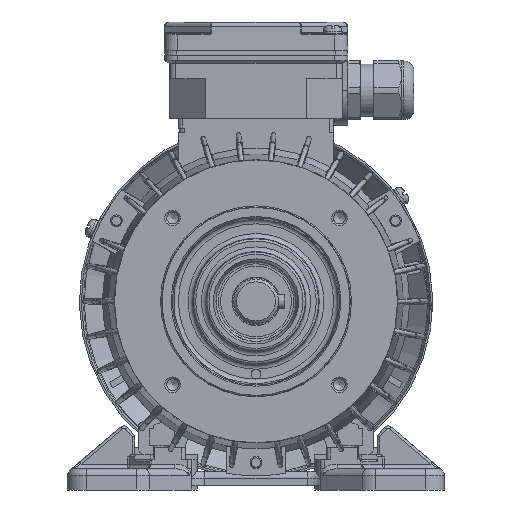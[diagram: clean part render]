
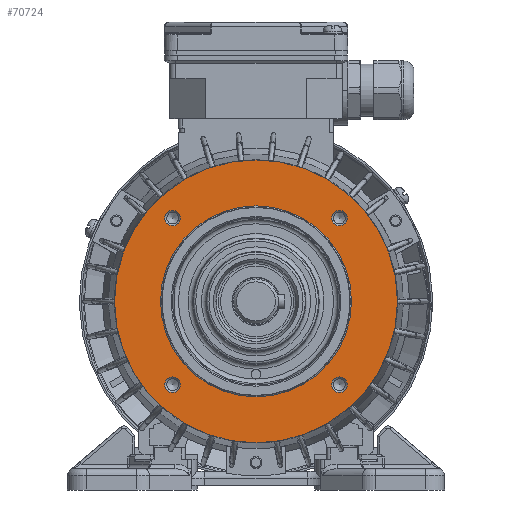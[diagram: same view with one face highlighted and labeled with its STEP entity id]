
A CAD part, left-side view. The second image highlights one B-rep face of the part: STEP entity #70724.
In plain terms, the highlighted planar face has unit normal (-1, 0, 0).
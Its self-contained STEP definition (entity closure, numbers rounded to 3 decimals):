
#21652=ORIENTED_EDGE('',*,*,#32033,.T.);
#21653=ORIENTED_EDGE('',*,*,#32034,.T.);
#21654=ORIENTED_EDGE('',*,*,#32035,.T.);
#21655=ORIENTED_EDGE('',*,*,#32036,.T.);
#21656=ORIENTED_EDGE('',*,*,#32037,.T.);
#21657=ORIENTED_EDGE('',*,*,#31959,.T.);
#31959=EDGE_CURVE('',#38035,#38035,#41195,.T.);
#32033=EDGE_CURVE('',#38048,#38048,#41231,.F.);
#32034=EDGE_CURVE('',#38049,#38049,#41232,.F.);
#32035=EDGE_CURVE('',#38050,#38050,#41233,.F.);
#32036=EDGE_CURVE('',#38051,#38051,#41234,.F.);
#32037=EDGE_CURVE('',#38052,#38052,#41235,.F.);
#38035=VERTEX_POINT('',#111730);
#38048=VERTEX_POINT('',#113359);
#38049=VERTEX_POINT('',#113361);
#38050=VERTEX_POINT('',#113363);
#38051=VERTEX_POINT('',#113365);
#38052=VERTEX_POINT('',#113367);
#41195=CIRCLE('',#74953,60.);
#41231=CIRCLE('',#75041,3.3);
#41232=CIRCLE('',#75042,3.3);
#41233=CIRCLE('',#75043,3.3);
#41234=CIRCLE('',#75044,3.3);
#41235=CIRCLE('',#75045,40.5);
#44075=EDGE_LOOP('',(#21652));
#44076=EDGE_LOOP('',(#21653));
#44077=EDGE_LOOP('',(#21654));
#44078=EDGE_LOOP('',(#21655));
#44079=EDGE_LOOP('',(#21656));
#44080=EDGE_LOOP('',(#21657));
#47489=FACE_BOUND('',#44075,.T.);
#47490=FACE_BOUND('',#44076,.T.);
#47491=FACE_BOUND('',#44077,.T.);
#47492=FACE_BOUND('',#44078,.T.);
#47493=FACE_BOUND('',#44079,.T.);
#47494=FACE_BOUND('',#44080,.T.);
#49623=PLANE('',#75040);
#70724=ADVANCED_FACE('',(#47489,#47490,#47491,#47492,#47493,#47494),#49623,
 .T.);
#74953=AXIS2_PLACEMENT_3D('',#111729,#85918,#85919);
#75040=AXIS2_PLACEMENT_3D('',#113357,#86116,#86117);
#75041=AXIS2_PLACEMENT_3D('',#113358,#86118,#86119);
#75042=AXIS2_PLACEMENT_3D('',#113360,#86120,#86121);
#75043=AXIS2_PLACEMENT_3D('',#113362,#86122,#86123);
#75044=AXIS2_PLACEMENT_3D('',#113364,#86124,#86125);
#75045=AXIS2_PLACEMENT_3D('',#113366,#86126,#86127);
#85918=DIRECTION('',(-1.,0.,0.));
#85919=DIRECTION('',(0.,0.,-1.));
#86116=DIRECTION('',(-1.,0.,0.));
#86117=DIRECTION('',(0.,0.,-1.));
#86118=DIRECTION('',(-1.,0.,0.));
#86119=DIRECTION('',(0.,0.,-1.));
#86120=DIRECTION('',(-1.,0.,0.));
#86121=DIRECTION('',(0.,0.,-1.));
#86122=DIRECTION('',(-1.,0.,0.));
#86123=DIRECTION('',(0.,0.,-1.));
#86124=DIRECTION('',(-1.,0.,0.));
#86125=DIRECTION('',(0.,0.,-1.));
#86126=DIRECTION('',(-1.,0.,0.));
#86127=DIRECTION('',(0.,0.,-1.));
#111729=CARTESIAN_POINT('',(-44.3,0.,0.));
#111730=CARTESIAN_POINT('',(-44.3,0.,-60.));
#113357=CARTESIAN_POINT('',(-44.3,0.,40.));
#113358=CARTESIAN_POINT('',(-44.3,35.355,-35.355));
#113359=CARTESIAN_POINT('',(-44.3,35.355,-38.655));
#113360=CARTESIAN_POINT('',(-44.3,-35.355,-35.355));
#113361=CARTESIAN_POINT('',(-44.3,-35.355,-38.655));
#113362=CARTESIAN_POINT('',(-44.3,-35.355,35.355));
#113363=CARTESIAN_POINT('',(-44.3,-35.355,32.055));
#113364=CARTESIAN_POINT('',(-44.3,35.355,35.355));
#113365=CARTESIAN_POINT('',(-44.3,35.355,32.055));
#113366=CARTESIAN_POINT('',(-44.3,0.,0.));
#113367=CARTESIAN_POINT('',(-44.3,0.,-40.5));
